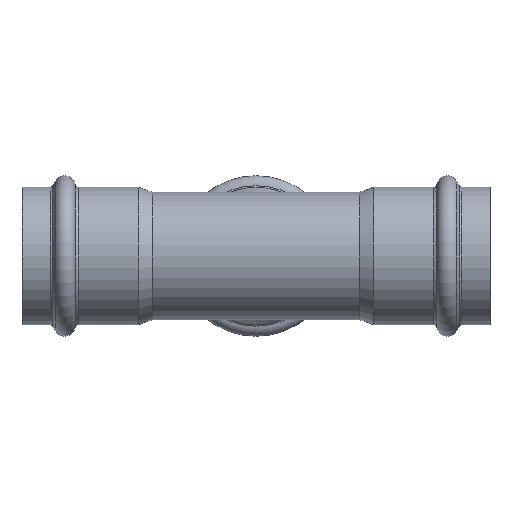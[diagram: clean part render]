
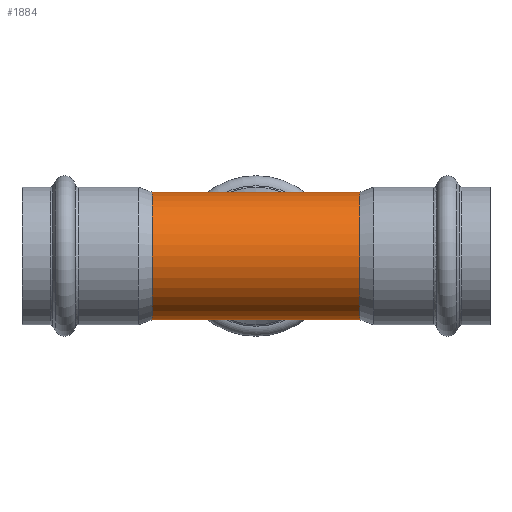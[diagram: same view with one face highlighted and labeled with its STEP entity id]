
A CAD part, front view. The second image highlights one B-rep face of the part: STEP entity #1884.
In plain terms, the highlighted cylindrical face has radius 21 mm (diameter 42 mm), a full revolution.
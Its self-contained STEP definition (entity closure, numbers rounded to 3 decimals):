
#1177=CARTESIAN_POINT('',(0.0,0.0,-21.0));
#1178=VERTEX_POINT('',#1177);
#1179=CARTESIAN_POINT('',(0.0,0.0,21.0));
#1180=VERTEX_POINT('',#1179);
#1181=CARTESIAN_POINT('',(0.0,0.0,0.0));
#1182=DIRECTION('',(0.69,0.723,0.0));
#1183=DIRECTION('',(-0.723,0.69,0.0));
#1184=AXIS2_PLACEMENT_3D('',#1181,#1182,#1183);
#1185=ELLIPSE('',#1184,30.414,21.);
#1186=EDGE_CURVE('',#1178,#1180,#1185,.T.);
#1343=CARTESIAN_POINT('',(0.0,0.0,0.0));
#1344=DIRECTION('',(-0.69,0.723,0.0));
#1345=DIRECTION('',(0.723,0.69,0.0));
#1346=AXIS2_PLACEMENT_3D('',#1343,#1344,#1345);
#1347=ELLIPSE('',#1346,30.414,21.);
#1348=EDGE_CURVE('',#1180,#1178,#1347,.T.);
#1846=CARTESIAN_POINT('',(-34.202,21.,0.0));
#1847=VERTEX_POINT('',#1846);
#1848=CARTESIAN_POINT('',(-34.202,0.,0.0));
#1849=DIRECTION('',(1.0,0.0,0.0));
#1850=DIRECTION('',(0.0,1.0,0.0));
#1851=AXIS2_PLACEMENT_3D('',#1848,#1849,#1850);
#1852=CIRCLE('',#1851,21.);
#1853=EDGE_CURVE('',#1847,#1847,#1852,.T.);
#1861=CARTESIAN_POINT('',(0.0,0.0,0.0));
#1862=DIRECTION('',(1.0,0.,0.0));
#1863=DIRECTION('',(0.0,1.0,0.0));
#1864=AXIS2_PLACEMENT_3D('',#1861,#1862,#1863);
#1865=CYLINDRICAL_SURFACE('',#1864,21.);
#1866=ORIENTED_EDGE('',*,*,#1853,.T.);
#1867=EDGE_LOOP('',(#1866));
#1868=FACE_OUTER_BOUND('',#1867,.T.);
#1869=ORIENTED_EDGE('',*,*,#1186,.F.);
#1870=ORIENTED_EDGE('',*,*,#1348,.F.);
#1871=EDGE_LOOP('',(#1869,#1870));
#1872=FACE_BOUND('',#1871,.T.);
#1873=CARTESIAN_POINT('',(34.202,21.,0.0));
#1874=VERTEX_POINT('',#1873);
#1875=CARTESIAN_POINT('',(34.202,0.,0.0));
#1876=DIRECTION('',(1.0,0.0,0.0));
#1877=DIRECTION('',(0.0,1.0,0.0));
#1878=AXIS2_PLACEMENT_3D('',#1875,#1876,#1877);
#1879=CIRCLE('',#1878,21.);
#1880=EDGE_CURVE('',#1874,#1874,#1879,.T.);
#1881=ORIENTED_EDGE('',*,*,#1880,.F.);
#1882=EDGE_LOOP('',(#1881));
#1883=FACE_BOUND('',#1882,.T.);
#1884=ADVANCED_FACE('',(#1868,#1872,#1883),#1865,.T.);
